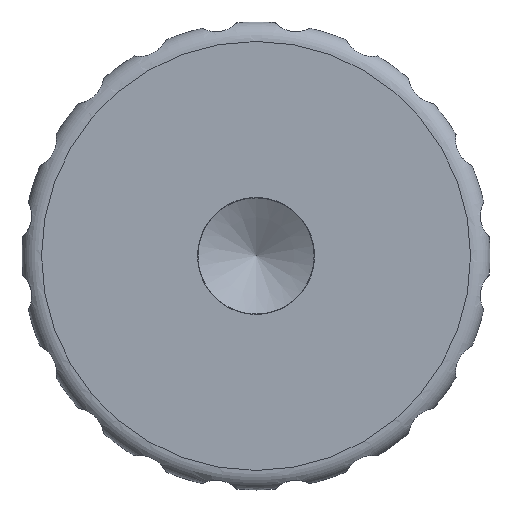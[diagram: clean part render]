
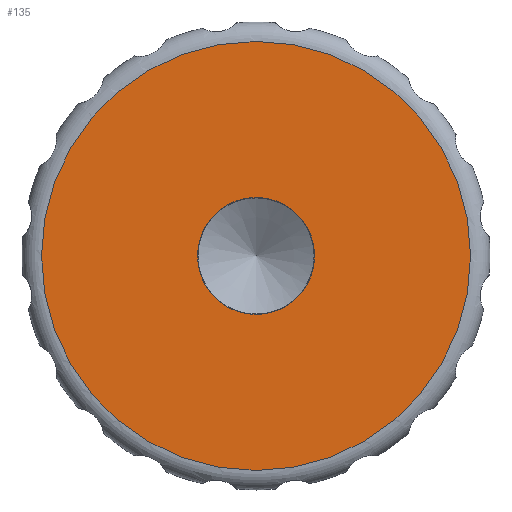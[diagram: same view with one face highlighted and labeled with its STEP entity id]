
A CAD part, left-side view. The second image highlights one B-rep face of the part: STEP entity #135.
In plain terms, the highlighted planar face has unit normal (-1, 0, 0).
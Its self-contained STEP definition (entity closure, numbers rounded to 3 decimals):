
#135 = ADVANCED_FACE( '', ( #271, #272 ), #273, .F. );
#271 = FACE_OUTER_BOUND( '', #411, .T. );
#272 = FACE_BOUND( '', #412, .T. );
#273 = PLANE( '', #413 );
#411 = EDGE_LOOP( '', ( #907 ) );
#412 = EDGE_LOOP( '', ( #908 ) );
#413 = AXIS2_PLACEMENT_3D( '', #909, #910, #911 );
#907 = ORIENTED_EDGE( '', *, *, #1077, .F. );
#908 = ORIENTED_EDGE( '', *, *, #1072, .T. );
#909 = CARTESIAN_POINT( '', ( 0., 3., 0. ) );
#910 = DIRECTION( '', ( 1., 0., 0. ) );
#911 = DIRECTION( '', ( 0., 0., -1. ) );
#1072 = EDGE_CURVE( '', #1332, #1332, #1333, .T. );
#1077 = EDGE_CURVE( '', #1340, #1340, #1341, .T. );
#1332 = VERTEX_POINT( '', #2433 );
#1333 = CIRCLE( '', #2434, 3. );
#1340 = VERTEX_POINT( '', #2441 );
#1341 = CIRCLE( '', #2442, 11. );
#2433 = CARTESIAN_POINT( '', ( 0., 0., -3. ) );
#2434 = AXIS2_PLACEMENT_3D( '', #2641, #2642, #2643 );
#2441 = CARTESIAN_POINT( '', ( 0., 0., -11. ) );
#2442 = AXIS2_PLACEMENT_3D( '', #2653, #2654, #2655 );
#2641 = CARTESIAN_POINT( '', ( 0., 0., 0. ) );
#2642 = DIRECTION( '', ( 1., 0., 0. ) );
#2643 = DIRECTION( '', ( 0., 0., -1. ) );
#2653 = CARTESIAN_POINT( '', ( 0., 0., 0. ) );
#2654 = DIRECTION( '', ( 1., 0., 0. ) );
#2655 = DIRECTION( '', ( 0., 0., -1. ) );
